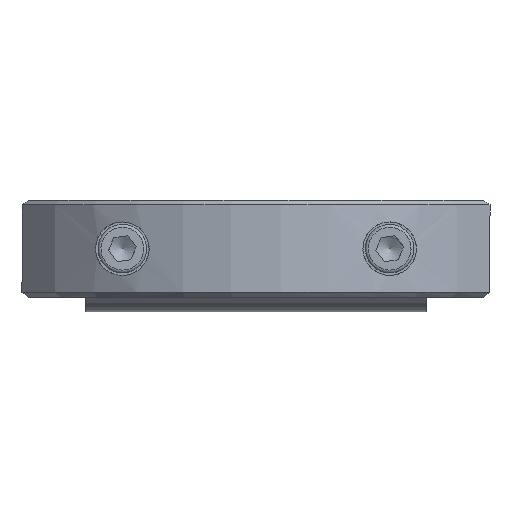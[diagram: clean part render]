
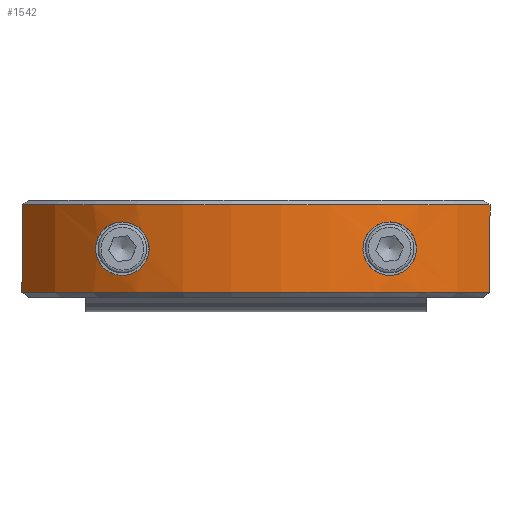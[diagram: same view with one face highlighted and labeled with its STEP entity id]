
A CAD part, front view. The second image highlights one B-rep face of the part: STEP entity #1542.
In plain terms, the highlighted cylindrical face has radius 60 mm (diameter 120 mm), a partial arc.
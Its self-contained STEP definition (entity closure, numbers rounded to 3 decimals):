
#99=B_SPLINE_CURVE_WITH_KNOTS('',3,(#2485,#2486,#2487,#2488,#2489,#2490,
#2491,#2492,#2493,#2494,#2495,#2496,#2497,#2498,#2499,#2500,#2501,#2502,
#2503,#2504,#2505,#2506,#2507,#2508,#2509,#2510,#2511,#2512,#2513,#2514,
#2515,#2516,#2517,#2518),.UNSPECIFIED.,.T.,.F.,(4,2,2,2,2,2,2,2,2,2,2,2,
2,2,2,2,4),(0.,0.207,0.414,0.654,0.894,
1.124,1.354,1.56,1.766,1.971,
2.177,2.407,2.637,2.877,3.117,
3.324,3.531),.UNSPECIFIED.);
#100=B_SPLINE_CURVE_WITH_KNOTS('',3,(#2526,#2527,#2528,#2529,#2530,#2531,
#2532,#2533,#2534,#2535,#2536,#2537,#2538,#2539,#2540,#2541,#2542,#2543,
#2544,#2545,#2546,#2547,#2548,#2549,#2550,#2551,#2552,#2553,#2554,#2555,
#2556,#2557,#2558,#2559),.UNSPECIFIED.,.T.,.F.,(4,2,2,2,2,2,2,2,2,2,2,2,
2,2,2,2,4),(0.,0.206,0.411,0.641,0.872,
1.112,1.352,1.559,1.766,1.973,
2.179,2.419,2.66,2.89,3.12,
3.325,3.531),.UNSPECIFIED.);
#146=FACE_BOUND('',#447,.T.);
#147=FACE_BOUND('',#448,.T.);
#207=CIRCLE('',#1689,60.);
#209=CIRCLE('',#1694,60.);
#252=CYLINDRICAL_SURFACE('',#1695,60.);
#315=FACE_OUTER_BOUND('',#446,.T.);
#446=EDGE_LOOP('',(#1246,#1247,#1248,#1249));
#447=EDGE_LOOP('',(#1250));
#448=EDGE_LOOP('',(#1251));
#584=LINE('',#2594,#678);
#588=LINE('',#2604,#682);
#678=VECTOR('',#2016,18.);
#682=VECTOR('',#2026,18.);
#765=VERTEX_POINT('',#2484);
#768=VERTEX_POINT('',#2525);
#775=VERTEX_POINT('',#2575);
#776=VERTEX_POINT('',#2579);
#779=VERTEX_POINT('',#2586);
#784=VERTEX_POINT('',#2599);
#926=EDGE_CURVE('',#765,#765,#99,.T.);
#929=EDGE_CURVE('',#768,#768,#100,.T.);
#944=EDGE_CURVE('',#779,#775,#584,.T.);
#949=EDGE_CURVE('',#776,#784,#588,.T.);
#951=EDGE_CURVE('',#784,#779,#207,.T.);
#957=EDGE_CURVE('',#775,#776,#209,.T.);
#1246=ORIENTED_EDGE('',*,*,#949,.F.);
#1247=ORIENTED_EDGE('',*,*,#957,.F.);
#1248=ORIENTED_EDGE('',*,*,#944,.F.);
#1249=ORIENTED_EDGE('',*,*,#951,.F.);
#1250=ORIENTED_EDGE('',*,*,#926,.T.);
#1251=ORIENTED_EDGE('',*,*,#929,.T.);
#1542=ADVANCED_FACE('',(#315,#146,#147),#252,.T.);
#1689=AXIS2_PLACEMENT_3D('',#2607,#2031,#2032);
#1694=AXIS2_PLACEMENT_3D('',#2616,#2045,#2046);
#1695=AXIS2_PLACEMENT_3D('',#2617,#2047,#2048);
#2016=DIRECTION('',(0.,0.,1.));
#2026=DIRECTION('',(0.,0.,-1.));
#2031=DIRECTION('center_axis',(0.,0.,-1.));
#2032=DIRECTION('ref_axis',(0.812,0.583,0.));
#2045=DIRECTION('center_axis',(0.,0.,1.));
#2046=DIRECTION('ref_axis',(0.812,0.583,0.));
#2047=DIRECTION('center_axis',(0.,0.,1.));
#2048=DIRECTION('ref_axis',(0.812,0.583,0.));
#2484=CARTESIAN_POINT('',(33.,15.11,0.));
#2485=CARTESIAN_POINT('Ctrl Pts',(33.,15.11,0.));
#2486=CARTESIAN_POINT('Ctrl Pts',(33.,15.11,0.69));
#2487=CARTESIAN_POINT('Ctrl Pts',(32.862,15.201,1.414));
#2488=CARTESIAN_POINT('Ctrl Pts',(32.329,15.546,2.726));
#2489=CARTESIAN_POINT('Ctrl Pts',(31.935,15.798,3.315));
#2490=CARTESIAN_POINT('Ctrl Pts',(30.993,16.379,4.312));
#2491=CARTESIAN_POINT('Ctrl Pts',(30.356,16.761,4.761));
#2492=CARTESIAN_POINT('Ctrl Pts',(28.965,17.551,5.355));
#2493=CARTESIAN_POINT('Ctrl Pts',(28.211,17.96,5.5));
#2494=CARTESIAN_POINT('Ctrl Pts',(26.818,18.678,5.5));
#2495=CARTESIAN_POINT('Ctrl Pts',(26.078,19.042,5.366));
#2496=CARTESIAN_POINT('Ctrl Pts',(24.695,19.688,4.79));
#2497=CARTESIAN_POINT('Ctrl Pts',(24.052,19.971,4.348));
#2498=CARTESIAN_POINT('Ctrl Pts',(23.085,20.384,3.345));
#2499=CARTESIAN_POINT('Ctrl Pts',(22.679,20.55,2.743));
#2500=CARTESIAN_POINT('Ctrl Pts',(22.136,20.768,1.413));
#2501=CARTESIAN_POINT('Ctrl Pts',(22.,20.821,0.686));
#2502=CARTESIAN_POINT('Ctrl Pts',(22.,20.821,-0.686));
#2503=CARTESIAN_POINT('Ctrl Pts',(22.136,20.768,-1.413));
#2504=CARTESIAN_POINT('Ctrl Pts',(22.679,20.55,-2.743));
#2505=CARTESIAN_POINT('Ctrl Pts',(23.085,20.384,-3.345));
#2506=CARTESIAN_POINT('Ctrl Pts',(24.052,19.971,-4.348));
#2507=CARTESIAN_POINT('Ctrl Pts',(24.695,19.688,-4.79));
#2508=CARTESIAN_POINT('Ctrl Pts',(26.078,19.042,-5.366));
#2509=CARTESIAN_POINT('Ctrl Pts',(26.818,18.678,-5.5));
#2510=CARTESIAN_POINT('Ctrl Pts',(28.211,17.96,-5.5));
#2511=CARTESIAN_POINT('Ctrl Pts',(28.965,17.551,-5.355));
#2512=CARTESIAN_POINT('Ctrl Pts',(30.356,16.761,-4.761));
#2513=CARTESIAN_POINT('Ctrl Pts',(30.993,16.379,-4.312));
#2514=CARTESIAN_POINT('Ctrl Pts',(31.935,15.798,-3.315));
#2515=CARTESIAN_POINT('Ctrl Pts',(32.329,15.546,-2.726));
#2516=CARTESIAN_POINT('Ctrl Pts',(32.862,15.201,-1.414));
#2517=CARTESIAN_POINT('Ctrl Pts',(33.,15.11,-0.69));
#2518=CARTESIAN_POINT('Ctrl Pts',(33.,15.11,0.));
#2525=CARTESIAN_POINT('',(-22.,20.821,0.));
#2526=CARTESIAN_POINT('Ctrl Pts',(-22.,20.821,0.));
#2527=CARTESIAN_POINT('Ctrl Pts',(-22.,20.821,0.686));
#2528=CARTESIAN_POINT('Ctrl Pts',(-22.136,20.768,1.413));
#2529=CARTESIAN_POINT('Ctrl Pts',(-22.679,20.55,2.743));
#2530=CARTESIAN_POINT('Ctrl Pts',(-23.085,20.384,3.345));
#2531=CARTESIAN_POINT('Ctrl Pts',(-24.052,19.971,4.348));
#2532=CARTESIAN_POINT('Ctrl Pts',(-24.695,19.688,4.79));
#2533=CARTESIAN_POINT('Ctrl Pts',(-26.078,19.042,5.366));
#2534=CARTESIAN_POINT('Ctrl Pts',(-26.818,18.678,5.5));
#2535=CARTESIAN_POINT('Ctrl Pts',(-28.211,17.96,5.5));
#2536=CARTESIAN_POINT('Ctrl Pts',(-28.965,17.551,5.355));
#2537=CARTESIAN_POINT('Ctrl Pts',(-30.356,16.761,4.761));
#2538=CARTESIAN_POINT('Ctrl Pts',(-30.993,16.379,4.312));
#2539=CARTESIAN_POINT('Ctrl Pts',(-31.935,15.798,3.315));
#2540=CARTESIAN_POINT('Ctrl Pts',(-32.329,15.546,2.726));
#2541=CARTESIAN_POINT('Ctrl Pts',(-32.862,15.201,1.414));
#2542=CARTESIAN_POINT('Ctrl Pts',(-33.,15.11,0.69));
#2543=CARTESIAN_POINT('Ctrl Pts',(-33.,15.11,-0.69));
#2544=CARTESIAN_POINT('Ctrl Pts',(-32.862,15.201,-1.414));
#2545=CARTESIAN_POINT('Ctrl Pts',(-32.329,15.546,-2.726));
#2546=CARTESIAN_POINT('Ctrl Pts',(-31.935,15.798,-3.315));
#2547=CARTESIAN_POINT('Ctrl Pts',(-30.993,16.379,-4.312));
#2548=CARTESIAN_POINT('Ctrl Pts',(-30.356,16.761,-4.761));
#2549=CARTESIAN_POINT('Ctrl Pts',(-28.965,17.551,-5.355));
#2550=CARTESIAN_POINT('Ctrl Pts',(-28.211,17.96,-5.5));
#2551=CARTESIAN_POINT('Ctrl Pts',(-26.818,18.678,-5.5));
#2552=CARTESIAN_POINT('Ctrl Pts',(-26.078,19.042,-5.366));
#2553=CARTESIAN_POINT('Ctrl Pts',(-24.695,19.688,-4.79));
#2554=CARTESIAN_POINT('Ctrl Pts',(-24.052,19.971,-4.348));
#2555=CARTESIAN_POINT('Ctrl Pts',(-23.085,20.384,-3.345));
#2556=CARTESIAN_POINT('Ctrl Pts',(-22.679,20.55,-2.743));
#2557=CARTESIAN_POINT('Ctrl Pts',(-22.136,20.768,-1.413));
#2558=CARTESIAN_POINT('Ctrl Pts',(-22.,20.821,-0.686));
#2559=CARTESIAN_POINT('Ctrl Pts',(-22.,20.821,0.));
#2575=CARTESIAN_POINT('',(48.144,0.807,9.));
#2579=CARTESIAN_POINT('',(-48.144,0.807,9.));
#2586=CARTESIAN_POINT('',(48.144,0.807,-9.));
#2594=CARTESIAN_POINT('',(48.144,0.807,0.));
#2599=CARTESIAN_POINT('',(-48.144,0.807,-9.));
#2604=CARTESIAN_POINT('',(-48.144,0.807,0.));
#2607=CARTESIAN_POINT('Origin',(0.,-35.,-9.));
#2616=CARTESIAN_POINT('Origin',(0.,-35.,9.));
#2617=CARTESIAN_POINT('Origin',(0.,-35.,0.));
